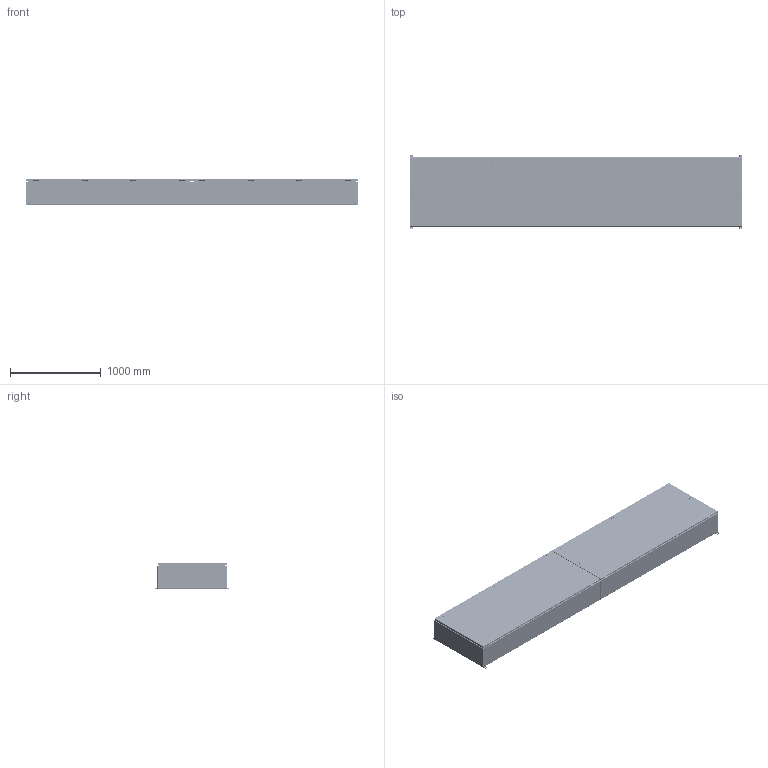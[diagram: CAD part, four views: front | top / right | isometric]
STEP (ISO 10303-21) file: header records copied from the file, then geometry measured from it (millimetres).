
FILE_DESCRIPTION(/* description */ ('1412BTSSCU 1000A - 4 Wires x 144" Assembly'),/* implementation_level */ '2;1');
FILE_NAME(/* name */ 'C:\Vault_Workspace\Inventor_Dwg\BoxCad\Result\1412BTSSCU121004DT\e-mail\3D\1412BTSSCU121004DT.stp',/* time_stamp */ '2022-11-03T18:45:33-04:00',/* author */ ('BoxCad'),/* organization */ (''),/* preprocessor_version */ 'ST-DEVELOPER v18.1',/* originating_system */ 'Autodesk Inventor 2020',/* authorisation */ '');
FILE_SCHEMA (('AUTOMOTIVE_DESIGN { 1 0 10303 214 3 1 1 }'));
Products named in the file (67): 1412BTSSCU121004DT; 1412BTSSCU121004DTB; 1412BTSSCU121004DTB-P; 1412BTSSCU121004DTE-P; STK-Q-16020; iLogic_STK-G-00701; STK-Q-00260; STK-Q-07220-1; STK-Q-07220-A; STK-Q-07220-B; 1412BTSSCU121004DTC; 1412BTSSCU121004DTC-P; 1412BTSSCU121004DTF-P; 1412BTSSCU121004DTG; STK-Q-16095; STK-K-09850-1; STK-Q-33019; STK-Q-90111; STK-Q-40096; STK-Q-63412; STK-S-00100; STK-A-880SCQ4-SLSS6-1; STK-A-880SCQ4-SLSS6-2; STK-A-880SCQ4-SLSS6-3; STK-A-880SCQ4-SLSS6-4; STK-A-880SCQ4-SLSS6-5; STK-A-880SCQ4-SLSS6-6; STK-A-880SCQ4-SLSS6-7; STK-A-880SCQ4-SLSS6-8; STK-A-880SCQ4-SLSS6-9; STK-A-880SCQ4-SLSS6-10; STK-Q-70621; STK-Q-70631; STK-Q-78145; STK-Q-03200; STK-Q-78125; STK-Q-90390; STK-Q-78160; STK-Q-78141; 1412BTSSCU121004DTIP1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
Assembly tree (256 placements, depth 4):
  1412BTSSCU121004DT
    1412BTSSCU121004DTB
      1412BTSSCU121004DTB-P
      1412BTSSCU121004DTE-P
      STK-Q-16095  x2
      STK-Q-16020  x12
      iLogic_STK-G-00701
      STK-Q-00260  x10
      STK-Q-07220-1  x10
        STK-Q-07220-A
        STK-Q-07220-B
      STK-S-00100
    1412BTSSCU121004DTC
      1412BTSSCU121004DTC-P
      1412BTSSCU121004DTF-P
      1412BTSSCU121004DTG  x2
      STK-Q-16095  x2
      STK-K-09850-1  x8
        STK-Q-33019
        STK-Q-90111
        STK-Q-40096
        STK-Q-63412
      STK-S-00100
      STK-A-880SCQ4-SLSS6-1
        STK-Q-70621
        STK-Q-70631
        STK-Q-78145
        STK-Q-03200
        STK-Q-78125
        STK-Q-90390
        STK-Q-78160
        STK-Q-78141
      STK-A-880SCQ4-SLSS6-2
        STK-Q-70621
        STK-Q-70631
        STK-Q-78145
        STK-Q-03200
        STK-Q-78125
        STK-Q-90390
        STK-Q-78160
        STK-Q-78141
      STK-A-880SCQ4-SLSS6-3
        STK-Q-70621
        STK-Q-70631
        STK-Q-78145
        STK-Q-03200
        STK-Q-78125
        STK-Q-90390
        STK-Q-78160
        STK-Q-78141
      STK-A-880SCQ4-SLSS6-4
        STK-Q-70621
        STK-Q-70631
        STK-Q-78145
        STK-Q-03200
        STK-Q-78125
        STK-Q-90390
        STK-Q-78160
        STK-Q-78141
      STK-A-880SCQ4-SLSS6-5
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Bounding box: 3657.6 x 819.15 x 294.2 mm (x, y, z)
Volume: 27097771.3 mm3; surface area: 23848006 mm2
Topology: 400 solids, 400 shells, 56968 faces, 149420 edges, 93236 vertices
Faces by surface type: plane 21474, bspline 15930, cylinder 13650, torus 4008, sphere 1224, cone 682
Full cylindrical faces by diameter (mm): 0.75 x16, 0.762 x16, 1 x32, 1.1 x32, 3.2 x16, 4.5 x80, 4.85 x64, 4.917 x8, 4.95 x16, 5 x10, 5.1 x140, 5.105 x72, 5.9 x278, 6.65 x20, 6.655 x12, 6.8 x10, 6.85 x120, 7.366 x16, 7.8 x820, 8 x74, 8.25 x40, 8.6 x12, 9.5 x10, 9.6 x10, 9.7 x48, 9.906 x4, 10 x18, 10.312 x2, 11.5 x40, 12 x28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
Entity records: 239637 total; most frequent: CARTESIAN_POINT 92203, ORIENTED_EDGE 32500, DIRECTION 26209, EDGE_CURVE 16250, VERTEX_POINT 10406, AXIS2_PLACEMENT_3D 9006, LINE 8197, VECTOR 8197
